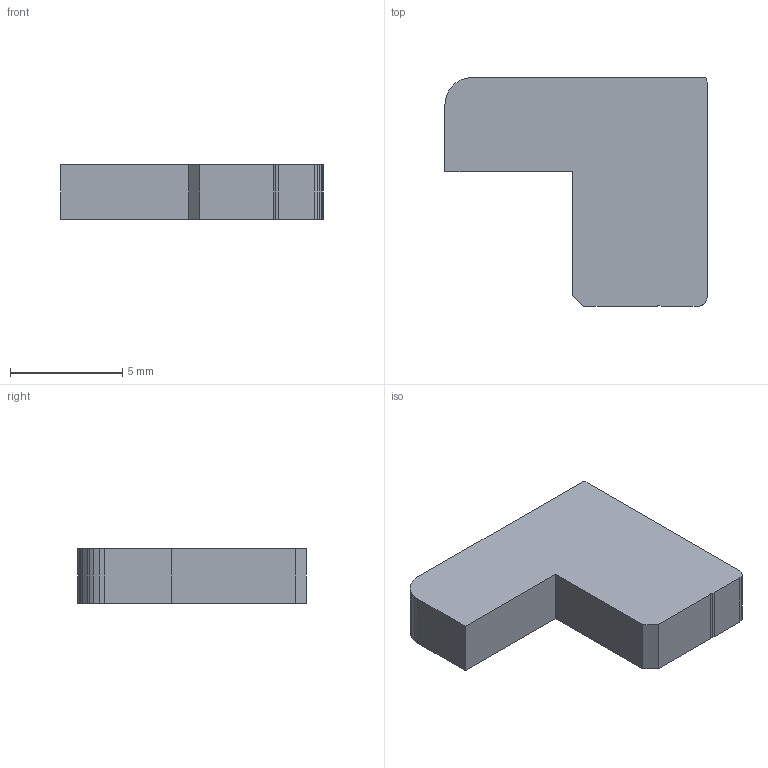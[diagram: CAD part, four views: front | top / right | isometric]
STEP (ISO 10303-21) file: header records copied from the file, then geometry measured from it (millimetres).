
FILE_DESCRIPTION(('Open CASCADE Model'),'2;1');
FILE_NAME('Open CASCADE Shape Model','2026-10-13T01:48:53',('Author'),( 'Open CASCADE'),'Open CASCADE STEP processor 7.9','Open CASCADE 7.9' ,'Unknown');
FILE_SCHEMA(('AUTOMOTIVE_DESIGN { 1 0 10303 214 1 1 1 1 }'));
Length unit declared in the file: millimetre
Products named in the file (1): Open CASCADE STEP translator 7.9 2
Bounding box: 11.7 x 10.2 x 2.42 mm (x, y, z)
Volume: 204.9 mm3; surface area: 273 mm2
Topology: 1 solids, 1 shells, 29 faces, 81 edges, 54 vertices
Faces by surface type: plane 29
Entity records: 1978 total; most frequent: CARTESIAN_POINT 327, DIRECTION 303, LINE 243, VECTOR 243, ORIENTED_EDGE 162, PCURVE 162, DEFINITIONAL_REPRESENTATION 162, EDGE_CURVE 81
